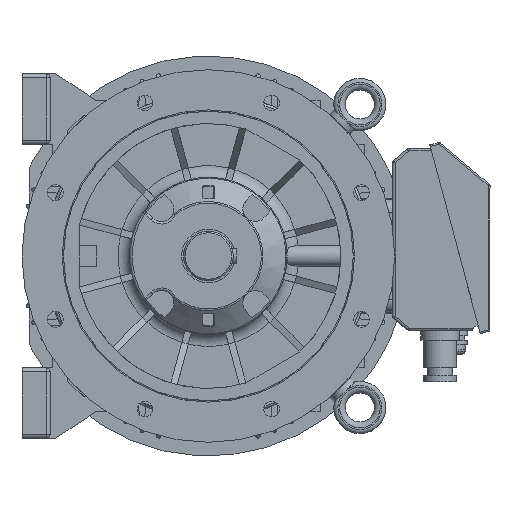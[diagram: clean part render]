
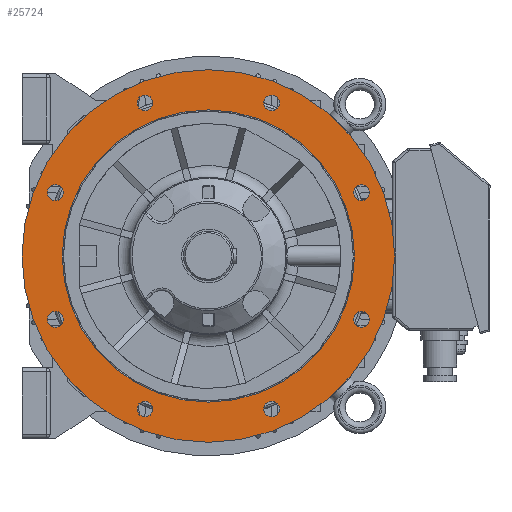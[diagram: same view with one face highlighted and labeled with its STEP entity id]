
A CAD part, front view. The second image highlights one B-rep face of the part: STEP entity #25724.
In plain terms, the highlighted planar face has unit normal (0, -1, 0).
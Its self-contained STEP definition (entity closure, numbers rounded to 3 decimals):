
#1339=CIRCLE('',#27370,224.995);
#1363=CIRCLE('',#27500,176.395);
#1364=CIRCLE('',#27501,9.5);
#1365=CIRCLE('',#27502,9.5);
#1366=CIRCLE('',#27503,9.5);
#1367=CIRCLE('',#27504,9.5);
#1368=CIRCLE('',#27505,9.5);
#1369=CIRCLE('',#27506,9.5);
#1370=CIRCLE('',#27507,9.5);
#1371=CIRCLE('',#27508,9.5);
#6331=ORIENTED_EDGE('',*,*,#9310,.F.);
#6332=ORIENTED_EDGE('',*,*,#9311,.F.);
#6333=ORIENTED_EDGE('',*,*,#9312,.F.);
#6334=ORIENTED_EDGE('',*,*,#9313,.F.);
#6335=ORIENTED_EDGE('',*,*,#9314,.F.);
#6336=ORIENTED_EDGE('',*,*,#9315,.F.);
#6337=ORIENTED_EDGE('',*,*,#9316,.F.);
#6338=ORIENTED_EDGE('',*,*,#9317,.F.);
#6339=ORIENTED_EDGE('',*,*,#9318,.F.);
#6340=ORIENTED_EDGE('',*,*,#9160,.F.);
#9160=EDGE_CURVE('',#11131,#11131,#1339,.T.);
#9310=EDGE_CURVE('',#11187,#11187,#1363,.T.);
#9311=EDGE_CURVE('',#11188,#11188,#1364,.T.);
#9312=EDGE_CURVE('',#11189,#11189,#1365,.T.);
#9313=EDGE_CURVE('',#11190,#11190,#1366,.T.);
#9314=EDGE_CURVE('',#11191,#11191,#1367,.T.);
#9315=EDGE_CURVE('',#11192,#11192,#1368,.T.);
#9316=EDGE_CURVE('',#11193,#11193,#1369,.T.);
#9317=EDGE_CURVE('',#11194,#11194,#1370,.T.);
#9318=EDGE_CURVE('',#11195,#11195,#1371,.T.);
#11131=VERTEX_POINT('',#38638);
#11187=VERTEX_POINT('',#38998);
#11188=VERTEX_POINT('',#39000);
#11189=VERTEX_POINT('',#39002);
#11190=VERTEX_POINT('',#39004);
#11191=VERTEX_POINT('',#39006);
#11192=VERTEX_POINT('',#39008);
#11193=VERTEX_POINT('',#39010);
#11194=VERTEX_POINT('',#39012);
#11195=VERTEX_POINT('',#39014);
#15675=EDGE_LOOP('',(#6331));
#15676=EDGE_LOOP('',(#6332));
#15677=EDGE_LOOP('',(#6333));
#15678=EDGE_LOOP('',(#6334));
#15679=EDGE_LOOP('',(#6335));
#15680=EDGE_LOOP('',(#6336));
#15681=EDGE_LOOP('',(#6337));
#15682=EDGE_LOOP('',(#6338));
#15683=EDGE_LOOP('',(#6339));
#15684=EDGE_LOOP('',(#6340));
#16845=FACE_BOUND('',#15675,.T.);
#16846=FACE_BOUND('',#15676,.T.);
#16847=FACE_BOUND('',#15677,.T.);
#16848=FACE_BOUND('',#15678,.T.);
#16849=FACE_BOUND('',#15679,.T.);
#16850=FACE_BOUND('',#15680,.T.);
#16851=FACE_BOUND('',#15681,.T.);
#16852=FACE_BOUND('',#15682,.T.);
#16853=FACE_BOUND('',#15683,.T.);
#16854=FACE_BOUND('',#15684,.T.);
#17595=PLANE('',#27499);
#25724=ADVANCED_FACE('',(#16845,#16846,#16847,#16848,#16849,#16850,#16851,
#16852,#16853,#16854),#17595,.F.);
#27370=AXIS2_PLACEMENT_3D('',#38637,#32213,#32214);
#27499=AXIS2_PLACEMENT_3D('',#38996,#32581,#32582);
#27500=AXIS2_PLACEMENT_3D('',#38997,#32583,#32584);
#27501=AXIS2_PLACEMENT_3D('',#38999,#32585,#32586);
#27502=AXIS2_PLACEMENT_3D('',#39001,#32587,#32588);
#27503=AXIS2_PLACEMENT_3D('',#39003,#32589,#32590);
#27504=AXIS2_PLACEMENT_3D('',#39005,#32591,#32592);
#27505=AXIS2_PLACEMENT_3D('',#39007,#32593,#32594);
#27506=AXIS2_PLACEMENT_3D('',#39009,#32595,#32596);
#27507=AXIS2_PLACEMENT_3D('',#39011,#32597,#32598);
#27508=AXIS2_PLACEMENT_3D('',#39013,#32599,#32600);
#32213=DIRECTION('',(0.,1.,0.));
#32214=DIRECTION('',(0.,0.,1.));
#32581=DIRECTION('',(0.,1.,0.));
#32582=DIRECTION('',(0.,0.,1.));
#32583=DIRECTION('',(0.,-1.,0.));
#32584=DIRECTION('',(0.,0.,-1.));
#32585=DIRECTION('',(0.,-1.,0.));
#32586=DIRECTION('',(0.,0.,-1.));
#32587=DIRECTION('',(0.,-1.,0.));
#32588=DIRECTION('',(0.,0.,-1.));
#32589=DIRECTION('',(0.,-1.,0.));
#32590=DIRECTION('',(0.,0.,-1.));
#32591=DIRECTION('',(0.,-1.,0.));
#32592=DIRECTION('',(0.,0.,-1.));
#32593=DIRECTION('',(0.,-1.,0.));
#32594=DIRECTION('',(0.,0.,-1.));
#32595=DIRECTION('',(0.,-1.,0.));
#32596=DIRECTION('',(0.,0.,-1.));
#32597=DIRECTION('',(0.,-1.,0.));
#32598=DIRECTION('',(0.,0.,-1.));
#32599=DIRECTION('',(0.,-1.,0.));
#32600=DIRECTION('',(0.,0.,-1.));
#38637=CARTESIAN_POINT('',(0.,-84.5,0.));
#38638=CARTESIAN_POINT('',(0.,-84.5,224.995));
#38996=CARTESIAN_POINT('',(0.,-84.5,176.395));
#38997=CARTESIAN_POINT('',(0.,-84.5,0.));
#38998=CARTESIAN_POINT('',(0.,-84.5,-176.395));
#38999=CARTESIAN_POINT('',(76.537,-84.5,-184.776));
#39000=CARTESIAN_POINT('',(76.537,-84.5,-194.276));
#39001=CARTESIAN_POINT('',(-76.537,-84.5,-184.776));
#39002=CARTESIAN_POINT('',(-76.537,-84.5,-194.276));
#39003=CARTESIAN_POINT('',(-184.776,-84.5,-76.537));
#39004=CARTESIAN_POINT('',(-184.776,-84.5,-86.037));
#39005=CARTESIAN_POINT('',(-184.776,-84.5,76.537));
#39006=CARTESIAN_POINT('',(-184.776,-84.5,67.037));
#39007=CARTESIAN_POINT('',(-76.537,-84.5,184.776));
#39008=CARTESIAN_POINT('',(-76.537,-84.5,175.276));
#39009=CARTESIAN_POINT('',(76.537,-84.5,184.776));
#39010=CARTESIAN_POINT('',(76.537,-84.5,175.276));
#39011=CARTESIAN_POINT('',(184.776,-84.5,76.537));
#39012=CARTESIAN_POINT('',(184.776,-84.5,67.037));
#39013=CARTESIAN_POINT('',(184.776,-84.5,-76.537));
#39014=CARTESIAN_POINT('',(184.776,-84.5,-86.037));
